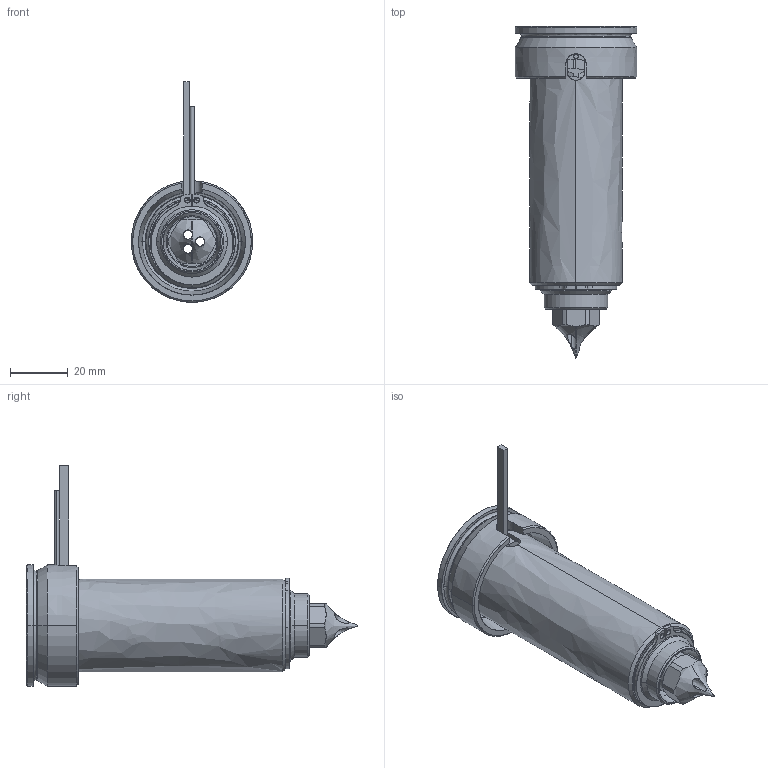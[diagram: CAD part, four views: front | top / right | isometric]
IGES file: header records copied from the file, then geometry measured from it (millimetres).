
Start section: SolidWorks IGES file using analytic representation for surfaces
Global section: file name: C:\Users\luca.EMPAD\Desktop\TEM\UGDL3613-M-A-1 [Øf=0.3 ØC=10].IGS; native system: SolidWorks 2012; preprocessor: SolidWorks 2012; author: luca; date: 120330.160424; units: millimetre
Bounding box: 42 x 114.8 x 76.3 mm (x, y, z)
Surface area: 36814.5 mm2 (no closed solid volume)
Topology: 0 solids, 0 shells, 125 faces, 2286 edges, 2286 vertices
Faces by surface type: revolution 79, bspline 46
